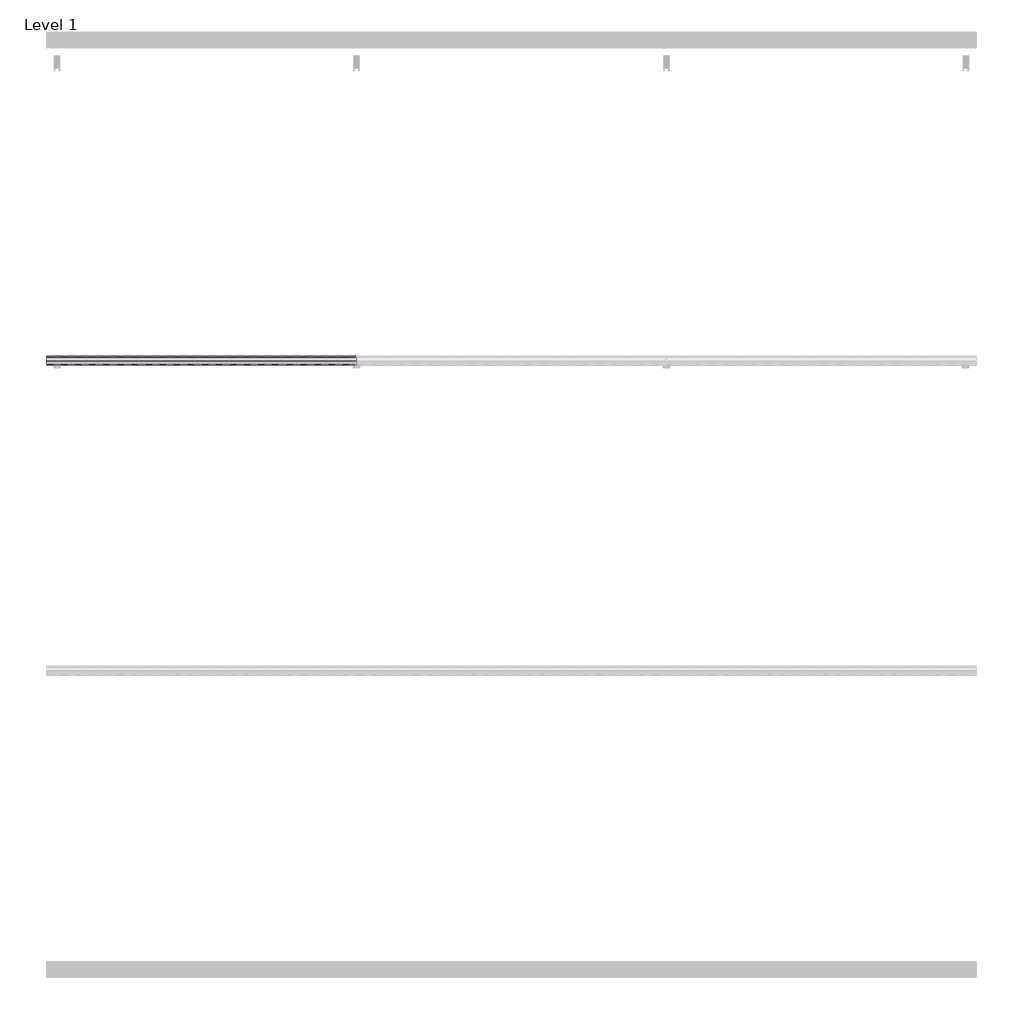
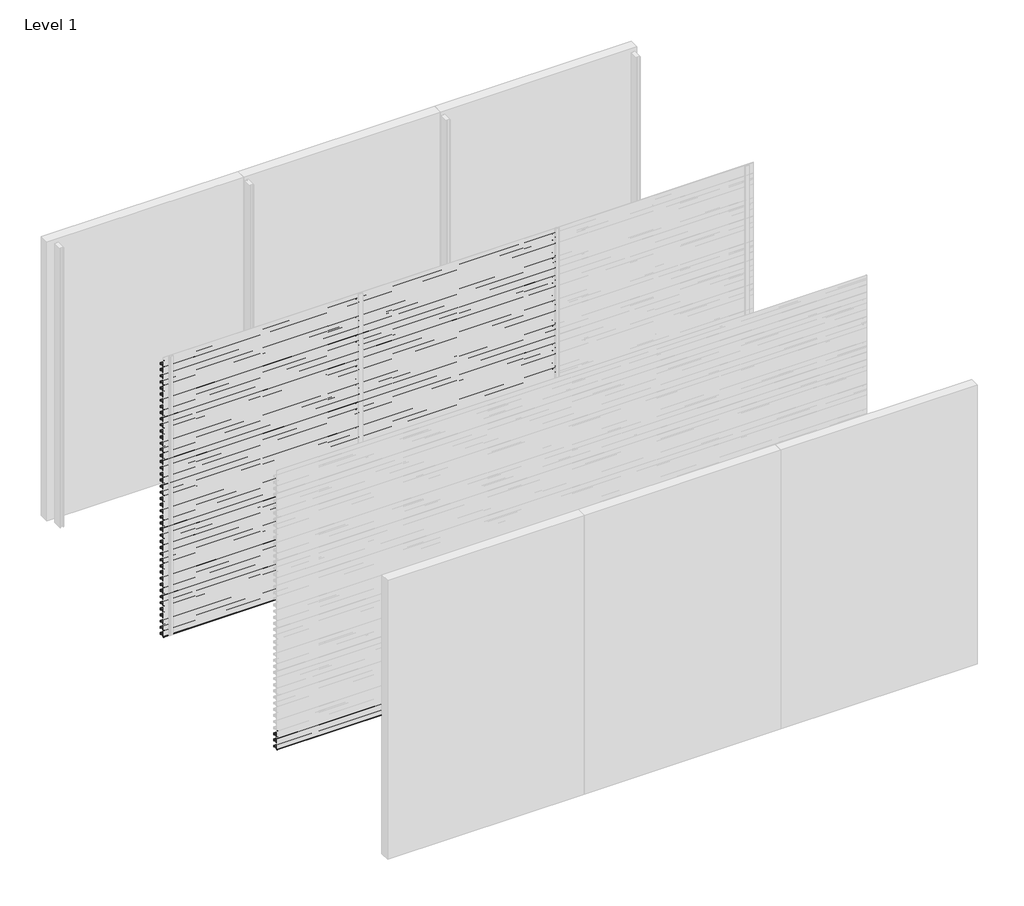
# One storey, part 16 of 27: 71 proxies.
"""IFC4 building model written with IfcOpenShell, lengths in millimetres."""

from ifc_helpers import new_model, si_unit, frame, origin, place, context, project, spatial, polyline, outline, extrude, element, save

model = new_model("IFC4")

# Units and contexts
model_context = context("Model", 3, world=origin())
ifc_project = project(units=[si_unit("LENGTHUNIT", "METRE", prefix="MILLI")], contexts=[model_context])

# Site, building, storey
site = spatial("IfcSite", under=ifc_project)
building = spatial("IfcBuilding", under=site)
storey = spatial("IfcBuildingStorey", under=building, Name="Level 1", Elevation=0.0)

# Proxies
placement = place(None, origin())
element("IfcBuildingElementProxy", 1, Name="Wall Sweeps", at=placement, inside=storey, context=model_context, shape_type="SweptSolid", body=[
    extrude(outline(polyline([(-23943.0, 2913.2), (-23943.0, 2893.5), (-23944.25, 2894.5866084), (-23944.25, 2912.4872415), (-23963.0322086, 2925.6010889), (-23995.1332975, 2893.5), (-23996.0525363, 2894.4192388), (-23964.1148087, 2926.3569665), (-23998.0, 2950.0158044), (-23998.0, 2970.0), (-23996.75, 2970.0), (-23996.75, 2950.7285629), (-23943.0, 2913.2)])), frame((0.0, 0.0, 0.0), z_axis=(1.0, 0.0, 0.0), x_axis=(0.0, 1.0, 0.0)), (0.0, 0.0, 1.0), 2000.0),
])
element("IfcBuildingElementProxy", 2, Name="Wall Sweeps", at=placement, inside=storey, context=model_context, shape_type="SweptSolid", body=[
    extrude(outline(polyline([(-23943.0, 2847.2), (-23943.0, 2827.5), (-23944.25, 2828.5866084), (-23944.25, 2846.4872415), (-23963.0322086, 2859.6010889), (-23995.1332975, 2827.5), (-23996.0525363, 2828.4192388), (-23964.1148087, 2860.3569665), (-23998.0, 2884.0158044), (-23998.0, 2904.0), (-23996.75, 2904.0), (-23996.75, 2884.7285629), (-23943.0, 2847.2)])), frame((0.0, 0.0, 0.0), z_axis=(1.0, 0.0, 0.0), x_axis=(0.0, 1.0, 0.0)), (0.0, 0.0, 1.0), 2000.0),
])
element("IfcBuildingElementProxy", 3, Name="Wall Sweeps", at=placement, inside=storey, context=model_context, shape_type="SweptSolid", body=[
    extrude(outline(polyline([(-23943.0, 2781.2), (-23943.0, 2761.5), (-23944.25, 2762.5866084), (-23944.25, 2780.4872415), (-23963.0322086, 2793.6010889), (-23995.1332975, 2761.5), (-23996.0525363, 2762.4192388), (-23964.1148087, 2794.3569665), (-23998.0, 2818.0158044), (-23998.0, 2838.0), (-23996.75, 2838.0), (-23996.75, 2818.7285629), (-23943.0, 2781.2)])), frame((0.0, 0.0, 0.0), z_axis=(1.0, 0.0, 0.0), x_axis=(0.0, 1.0, 0.0)), (0.0, 0.0, 1.0), 2000.0),
])
element("IfcBuildingElementProxy", 4, Name="Wall Sweeps", at=placement, inside=storey, context=model_context, shape_type="SweptSolid", body=[
    extrude(outline(polyline([(-23943.0, 2715.2), (-23943.0, 2695.5), (-23944.25, 2696.5866084), (-23944.25, 2714.4872415), (-23963.0322086, 2727.6010889), (-23995.1332975, 2695.5), (-23996.0525363, 2696.4192388), (-23964.1148087, 2728.3569665), (-23998.0, 2752.0158044), (-23998.0, 2772.0), (-23996.75, 2772.0), (-23996.75, 2752.7285629), (-23943.0, 2715.2)])), frame((0.0, 0.0, 0.0), z_axis=(1.0, 0.0, 0.0), x_axis=(0.0, 1.0, 0.0)), (0.0, 0.0, 1.0), 2000.0),
])
element("IfcBuildingElementProxy", 5, Name="Wall Sweeps", at=placement, inside=storey, context=model_context, shape_type="SweptSolid", body=[
    extrude(outline(polyline([(-23943.0, 2649.2), (-23943.0, 2629.5), (-23944.25, 2630.5866084), (-23944.25, 2648.4872415), (-23963.0322086, 2661.6010889), (-23995.1332975, 2629.5), (-23996.0525363, 2630.4192388), (-23964.1148087, 2662.3569665), (-23998.0, 2686.0158044), (-23998.0, 2706.0), (-23996.75, 2706.0), (-23996.75, 2686.7285629), (-23943.0, 2649.2)])), frame((0.0, 0.0, 0.0), z_axis=(1.0, 0.0, 0.0), x_axis=(0.0, 1.0, 0.0)), (0.0, 0.0, 1.0), 2000.0),
])
element("IfcBuildingElementProxy", 6, Name="Wall Sweeps", at=placement, inside=storey, context=model_context, shape_type="SweptSolid", body=[
    extrude(outline(polyline([(-23943.0, 2583.2), (-23943.0, 2563.5), (-23944.25, 2564.5866084), (-23944.25, 2582.4872415), (-23963.0322086, 2595.6010889), (-23995.1332975, 2563.5), (-23996.0525363, 2564.4192388), (-23964.1148087, 2596.3569665), (-23998.0, 2620.0158044), (-23998.0, 2640.0), (-23996.75, 2640.0), (-23996.75, 2620.7285629), (-23943.0, 2583.2)])), frame((0.0, 0.0, 0.0), z_axis=(1.0, 0.0, 0.0), x_axis=(0.0, 1.0, 0.0)), (0.0, 0.0, 1.0), 2000.0),
])
element("IfcBuildingElementProxy", 7, Name="Wall Sweeps", at=placement, inside=storey, context=model_context, shape_type="SweptSolid", body=[
    extrude(outline(polyline([(-23943.0, 2517.2), (-23943.0, 2497.5), (-23944.25, 2498.5866084), (-23944.25, 2516.4872415), (-23963.0322086, 2529.6010889), (-23995.1332975, 2497.5), (-23996.0525363, 2498.4192388), (-23964.1148087, 2530.3569665), (-23998.0, 2554.0158044), (-23998.0, 2574.0), (-23996.75, 2574.0), (-23996.75, 2554.7285629), (-23943.0, 2517.2)])), frame((0.0, 0.0, 0.0), z_axis=(1.0, 0.0, 0.0), x_axis=(0.0, 1.0, 0.0)), (0.0, 0.0, 1.0), 2000.0),
])
element("IfcBuildingElementProxy", 8, Name="Wall Sweeps", at=placement, inside=storey, context=model_context, shape_type="SweptSolid", body=[
    extrude(outline(polyline([(-23943.0, 2451.2), (-23943.0, 2431.5), (-23944.25, 2432.5866084), (-23944.25, 2450.4872415), (-23963.0322086, 2463.6010889), (-23995.1332975, 2431.5), (-23996.0525363, 2432.4192388), (-23964.1148087, 2464.3569665), (-23998.0, 2488.0158044), (-23998.0, 2508.0), (-23996.75, 2508.0), (-23996.75, 2488.7285629), (-23943.0, 2451.2)])), frame((0.0, 0.0, 0.0), z_axis=(1.0, 0.0, 0.0), x_axis=(0.0, 1.0, 0.0)), (0.0, 0.0, 1.0), 2000.0),
])
element("IfcBuildingElementProxy", 9, Name="Wall Sweeps", at=placement, inside=storey, context=model_context, shape_type="SweptSolid", body=[
    extrude(outline(polyline([(-23943.0, 2385.2), (-23943.0, 2365.5), (-23944.25, 2366.5866084), (-23944.25, 2384.4872415), (-23963.0322086, 2397.6010889), (-23995.1332975, 2365.5), (-23996.0525363, 2366.4192388), (-23964.1148087, 2398.3569665), (-23998.0, 2422.0158044), (-23998.0, 2442.0), (-23996.75, 2442.0), (-23996.75, 2422.7285629), (-23943.0, 2385.2)])), frame((0.0, 0.0, 0.0), z_axis=(1.0, 0.0, 0.0), x_axis=(0.0, 1.0, 0.0)), (0.0, 0.0, 1.0), 2000.0),
])
element("IfcBuildingElementProxy", 10, Name="Wall Sweeps", at=placement, inside=storey, context=model_context, shape_type="SweptSolid", body=[
    extrude(outline(polyline([(-23943.0, 2319.2), (-23943.0, 2299.5), (-23944.25, 2300.5866084), (-23944.25, 2318.4872415), (-23963.0322086, 2331.6010889), (-23995.1332975, 2299.5), (-23996.0525363, 2300.4192388), (-23964.1148087, 2332.3569665), (-23998.0, 2356.0158044), (-23998.0, 2376.0), (-23996.75, 2376.0), (-23996.75, 2356.7285629), (-23943.0, 2319.2)])), frame((0.0, 0.0, 0.0), z_axis=(1.0, 0.0, 0.0), x_axis=(0.0, 1.0, 0.0)), (0.0, 0.0, 1.0), 2000.0),
])
element("IfcBuildingElementProxy", 11, Name="Wall Sweeps", at=placement, inside=storey, context=model_context, shape_type="SweptSolid", body=[
    extrude(outline(polyline([(-23943.0, 2253.2), (-23943.0, 2233.5), (-23944.25, 2234.5866084), (-23944.25, 2252.4872415), (-23963.0322086, 2265.6010889), (-23995.1332975, 2233.5), (-23996.0525363, 2234.4192388), (-23964.1148087, 2266.3569665), (-23998.0, 2290.0158044), (-23998.0, 2310.0), (-23996.75, 2310.0), (-23996.75, 2290.7285629), (-23943.0, 2253.2)])), frame((0.0, 0.0, 0.0), z_axis=(1.0, 0.0, 0.0), x_axis=(0.0, 1.0, 0.0)), (0.0, 0.0, 1.0), 2000.0),
])
element("IfcBuildingElementProxy", 12, Name="Wall Sweeps", at=placement, inside=storey, context=model_context, shape_type="SweptSolid", body=[
    extrude(outline(polyline([(-23943.0, 2187.2), (-23943.0, 2167.5), (-23944.25, 2168.5866084), (-23944.25, 2186.4872415), (-23963.0322086, 2199.6010889), (-23995.1332975, 2167.5), (-23996.0525363, 2168.4192388), (-23964.1148087, 2200.3569665), (-23998.0, 2224.0158044), (-23998.0, 2244.0), (-23996.75, 2244.0), (-23996.75, 2224.7285629), (-23943.0, 2187.2)])), frame((0.0, 0.0, 0.0), z_axis=(1.0, 0.0, 0.0), x_axis=(0.0, 1.0, 0.0)), (0.0, 0.0, 1.0), 2000.0),
])
element("IfcBuildingElementProxy", 13, Name="Wall Sweeps", at=placement, inside=storey, context=model_context, shape_type="SweptSolid", body=[
    extrude(outline(polyline([(-23943.0, 2121.2), (-23943.0, 2101.5), (-23944.25, 2102.5866084), (-23944.25, 2120.4872415), (-23963.0322086, 2133.6010889), (-23995.1332975, 2101.5), (-23996.0525363, 2102.4192388), (-23964.1148087, 2134.3569665), (-23998.0, 2158.0158044), (-23998.0, 2178.0), (-23996.75, 2178.0), (-23996.75, 2158.7285629), (-23943.0, 2121.2)])), frame((0.0, 0.0, 0.0), z_axis=(1.0, 0.0, 0.0), x_axis=(0.0, 1.0, 0.0)), (0.0, 0.0, 1.0), 2000.0),
])
element("IfcBuildingElementProxy", 14, Name="Wall Sweeps", at=placement, inside=storey, context=model_context, shape_type="SweptSolid", body=[
    extrude(outline(polyline([(-23943.0, 2055.2), (-23943.0, 2035.5), (-23944.25, 2036.5866084), (-23944.25, 2054.4872415), (-23963.0322086, 2067.6010889), (-23995.1332975, 2035.5), (-23996.0525363, 2036.4192388), (-23964.1148087, 2068.3569665), (-23998.0, 2092.0158044), (-23998.0, 2112.0), (-23996.75, 2112.0), (-23996.75, 2092.7285629), (-23943.0, 2055.2)])), frame((0.0, 0.0, 0.0), z_axis=(1.0, 0.0, 0.0), x_axis=(0.0, 1.0, 0.0)), (0.0, 0.0, 1.0), 2000.0),
])
element("IfcBuildingElementProxy", 15, Name="Wall Sweeps", at=placement, inside=storey, context=model_context, shape_type="SweptSolid", body=[
    extrude(outline(polyline([(-23943.0, 1989.2), (-23943.0, 1969.5), (-23944.25, 1970.5866084), (-23944.25, 1988.4872415), (-23963.0322086, 2001.6010889), (-23995.1332975, 1969.5), (-23996.0525363, 1970.4192388), (-23964.1148087, 2002.3569665), (-23998.0, 2026.0158044), (-23998.0, 2046.0), (-23996.75, 2046.0), (-23996.75, 2026.7285629), (-23943.0, 1989.2)])), frame((0.0, 0.0, 0.0), z_axis=(1.0, 0.0, 0.0), x_axis=(0.0, 1.0, 0.0)), (0.0, 0.0, 1.0), 2000.0),
])
element("IfcBuildingElementProxy", 16, Name="Wall Sweeps", at=placement, inside=storey, context=model_context, shape_type="SweptSolid", body=[
    extrude(outline(polyline([(-23943.0, 1923.2), (-23943.0, 1903.5), (-23944.25, 1904.5866084), (-23944.25, 1922.4872415), (-23963.0322086, 1935.6010889), (-23995.1332975, 1903.5), (-23996.0525363, 1904.4192388), (-23964.1148087, 1936.3569665), (-23998.0, 1960.0158044), (-23998.0, 1980.0), (-23996.75, 1980.0), (-23996.75, 1960.7285629), (-23943.0, 1923.2)])), frame((0.0, 0.0, 0.0), z_axis=(1.0, 0.0, 0.0), x_axis=(0.0, 1.0, 0.0)), (0.0, 0.0, 1.0), 2000.0),
])
element("IfcBuildingElementProxy", 17, Name="Wall Sweeps", at=placement, inside=storey, context=model_context, shape_type="SweptSolid", body=[
    extrude(outline(polyline([(-23943.0, 1857.2), (-23943.0, 1837.5), (-23944.25, 1838.5866084), (-23944.25, 1856.4872415), (-23963.0322086, 1869.6010889), (-23995.1332975, 1837.5), (-23996.0525363, 1838.4192388), (-23964.1148087, 1870.3569665), (-23998.0, 1894.0158044), (-23998.0, 1914.0), (-23996.75, 1914.0), (-23996.75, 1894.7285629), (-23943.0, 1857.2)])), frame((0.0, 0.0, 0.0), z_axis=(1.0, 0.0, 0.0), x_axis=(0.0, 1.0, 0.0)), (0.0, 0.0, 1.0), 2000.0),
])
element("IfcBuildingElementProxy", 18, Name="Wall Sweeps", at=placement, inside=storey, context=model_context, shape_type="SweptSolid", body=[
    extrude(outline(polyline([(-23943.0, 1791.2), (-23943.0, 1771.5), (-23944.25, 1772.5866084), (-23944.25, 1790.4872415), (-23963.0322086, 1803.6010889), (-23995.1332975, 1771.5), (-23996.0525363, 1772.4192388), (-23964.1148087, 1804.3569665), (-23998.0, 1828.0158044), (-23998.0, 1848.0), (-23996.75, 1848.0), (-23996.75, 1828.7285629), (-23943.0, 1791.2)])), frame((0.0, 0.0, 0.0), z_axis=(1.0, 0.0, 0.0), x_axis=(0.0, 1.0, 0.0)), (0.0, 0.0, 1.0), 2000.0),
])
element("IfcBuildingElementProxy", 19, Name="Wall Sweeps", at=placement, inside=storey, context=model_context, shape_type="SweptSolid", body=[
    extrude(outline(polyline([(-23943.0, 1725.2), (-23943.0, 1705.5), (-23944.25, 1706.5866084), (-23944.25, 1724.4872415), (-23963.0322086, 1737.6010889), (-23995.1332975, 1705.5), (-23996.0525363, 1706.4192388), (-23964.1148087, 1738.3569665), (-23998.0, 1762.0158044), (-23998.0, 1782.0), (-23996.75, 1782.0), (-23996.75, 1762.7285629), (-23943.0, 1725.2)])), frame((0.0, 0.0, 0.0), z_axis=(1.0, 0.0, 0.0), x_axis=(0.0, 1.0, 0.0)), (0.0, 0.0, 1.0), 2000.0),
])
element("IfcBuildingElementProxy", 20, Name="Wall Sweeps", at=placement, inside=storey, context=model_context, shape_type="SweptSolid", body=[
    extrude(outline(polyline([(-23943.0, 1659.2), (-23943.0, 1639.5), (-23944.25, 1640.5866084), (-23944.25, 1658.4872415), (-23963.0322086, 1671.6010889), (-23995.1332975, 1639.5), (-23996.0525363, 1640.4192388), (-23964.1148087, 1672.3569665), (-23998.0, 1696.0158044), (-23998.0, 1716.0), (-23996.75, 1716.0), (-23996.75, 1696.7285629), (-23943.0, 1659.2)])), frame((0.0, 0.0, 0.0), z_axis=(1.0, 0.0, 0.0), x_axis=(0.0, 1.0, 0.0)), (0.0, 0.0, 1.0), 2000.0),
])
element("IfcBuildingElementProxy", 21, Name="Wall Sweeps", at=placement, inside=storey, context=model_context, shape_type="SweptSolid", body=[
    extrude(outline(polyline([(-23943.0, 1593.2), (-23943.0, 1573.5), (-23944.25, 1574.5866084), (-23944.25, 1592.4872415), (-23963.0322086, 1605.6010889), (-23995.1332975, 1573.5), (-23996.0525363, 1574.4192388), (-23964.1148087, 1606.3569665), (-23998.0, 1630.0158044), (-23998.0, 1650.0), (-23996.75, 1650.0), (-23996.75, 1630.7285629), (-23943.0, 1593.2)])), frame((0.0, 0.0, 0.0), z_axis=(1.0, 0.0, 0.0), x_axis=(0.0, 1.0, 0.0)), (0.0, 0.0, 1.0), 2000.0),
])
element("IfcBuildingElementProxy", 22, Name="Wall Sweeps", at=placement, inside=storey, context=model_context, shape_type="SweptSolid", body=[
    extrude(outline(polyline([(-23943.0, 1527.2), (-23943.0, 1507.5), (-23944.25, 1508.5866084), (-23944.25, 1526.4872415), (-23963.0322086, 1539.6010889), (-23995.1332975, 1507.5), (-23996.0525363, 1508.4192388), (-23964.1148087, 1540.3569665), (-23998.0, 1564.0158044), (-23998.0, 1584.0), (-23996.75, 1584.0), (-23996.75, 1564.7285629), (-23943.0, 1527.2)])), frame((0.0, 0.0, 0.0), z_axis=(1.0, 0.0, 0.0), x_axis=(0.0, 1.0, 0.0)), (0.0, 0.0, 1.0), 2000.0),
])
element("IfcBuildingElementProxy", 23, Name="Wall Sweeps", at=placement, inside=storey, context=model_context, shape_type="SweptSolid", body=[
    extrude(outline(polyline([(-23943.0, 1461.2), (-23943.0, 1441.5), (-23944.25, 1442.5866084), (-23944.25, 1460.4872415), (-23963.0322086, 1473.6010889), (-23995.1332975, 1441.5), (-23996.0525363, 1442.4192388), (-23964.1148087, 1474.3569665), (-23998.0, 1498.0158044), (-23998.0, 1518.0), (-23996.75, 1518.0), (-23996.75, 1498.7285629), (-23943.0, 1461.2)])), frame((0.0, 0.0, 0.0), z_axis=(1.0, 0.0, 0.0), x_axis=(0.0, 1.0, 0.0)), (0.0, 0.0, 1.0), 2000.0),
])
element("IfcBuildingElementProxy", 24, Name="Wall Sweeps", at=placement, inside=storey, context=model_context, shape_type="SweptSolid", body=[
    extrude(outline(polyline([(-23943.0, 1395.2), (-23943.0, 1375.5), (-23944.25, 1376.5866084), (-23944.25, 1394.4872415), (-23963.0322086, 1407.6010889), (-23995.1332975, 1375.5), (-23996.0525363, 1376.4192388), (-23964.1148087, 1408.3569665), (-23998.0, 1432.0158044), (-23998.0, 1452.0), (-23996.75, 1452.0), (-23996.75, 1432.7285629), (-23943.0, 1395.2)])), frame((0.0, 0.0, 0.0), z_axis=(1.0, 0.0, 0.0), x_axis=(0.0, 1.0, 0.0)), (0.0, 0.0, 1.0), 2000.0),
])
element("IfcBuildingElementProxy", 25, Name="Wall Sweeps", at=placement, inside=storey, context=model_context, shape_type="SweptSolid", body=[
    extrude(outline(polyline([(-23943.0, 1329.2), (-23943.0, 1309.5), (-23944.25, 1310.5866084), (-23944.25, 1328.4872415), (-23963.0322086, 1341.6010889), (-23995.1332975, 1309.5), (-23996.0525363, 1310.4192388), (-23964.1148087, 1342.3569665), (-23998.0, 1366.0158044), (-23998.0, 1386.0), (-23996.75, 1386.0), (-23996.75, 1366.7285629), (-23943.0, 1329.2)])), frame((0.0, 0.0, 0.0), z_axis=(1.0, 0.0, 0.0), x_axis=(0.0, 1.0, 0.0)), (0.0, 0.0, 1.0), 2000.0),
])
element("IfcBuildingElementProxy", 26, Name="Wall Sweeps", at=placement, inside=storey, context=model_context, shape_type="SweptSolid", body=[
    extrude(outline(polyline([(-23943.0, 1263.2), (-23943.0, 1243.5), (-23944.25, 1244.5866084), (-23944.25, 1262.4872415), (-23963.0322086, 1275.6010889), (-23995.1332975, 1243.5), (-23996.0525363, 1244.4192388), (-23964.1148087, 1276.3569665), (-23998.0, 1300.0158044), (-23998.0, 1320.0), (-23996.75, 1320.0), (-23996.75, 1300.7285629), (-23943.0, 1263.2)])), frame((0.0, 0.0, 0.0), z_axis=(1.0, 0.0, 0.0), x_axis=(0.0, 1.0, 0.0)), (0.0, 0.0, 1.0), 2000.0),
])
element("IfcBuildingElementProxy", 27, Name="Wall Sweeps", at=placement, inside=storey, context=model_context, shape_type="SweptSolid", body=[
    extrude(outline(polyline([(-23943.0, 1197.2), (-23943.0, 1177.5), (-23944.25, 1178.5866084), (-23944.25, 1196.4872415), (-23963.0322086, 1209.6010889), (-23995.1332975, 1177.5), (-23996.0525363, 1178.4192388), (-23964.1148087, 1210.3569665), (-23998.0, 1234.0158044), (-23998.0, 1254.0), (-23996.75, 1254.0), (-23996.75, 1234.7285629), (-23943.0, 1197.2)])), frame((0.0, 0.0, 0.0), z_axis=(1.0, 0.0, 0.0), x_axis=(0.0, 1.0, 0.0)), (0.0, 0.0, 1.0), 2000.0),
])
element("IfcBuildingElementProxy", 28, Name="Wall Sweeps", at=placement, inside=storey, context=model_context, shape_type="SweptSolid", body=[
    extrude(outline(polyline([(-23943.0, 1131.2), (-23943.0, 1111.5), (-23944.25, 1112.5866084), (-23944.25, 1130.4872415), (-23963.0322086, 1143.6010889), (-23995.1332975, 1111.5), (-23996.0525363, 1112.4192388), (-23964.1148087, 1144.3569665), (-23998.0, 1168.0158044), (-23998.0, 1188.0), (-23996.75, 1188.0), (-23996.75, 1168.7285629), (-23943.0, 1131.2)])), frame((0.0, 0.0, 0.0), z_axis=(1.0, 0.0, 0.0), x_axis=(0.0, 1.0, 0.0)), (0.0, 0.0, 1.0), 2000.0),
])
element("IfcBuildingElementProxy", 29, Name="Wall Sweeps", at=placement, inside=storey, context=model_context, shape_type="SweptSolid", body=[
    extrude(outline(polyline([(-23943.0, 1065.2), (-23943.0, 1045.5), (-23944.25, 1046.5866084), (-23944.25, 1064.4872415), (-23963.0322086, 1077.6010889), (-23995.1332975, 1045.5), (-23996.0525363, 1046.4192388), (-23964.1148087, 1078.3569665), (-23998.0, 1102.0158044), (-23998.0, 1122.0), (-23996.75, 1122.0), (-23996.75, 1102.7285629), (-23943.0, 1065.2)])), frame((0.0, 0.0, 0.0), z_axis=(1.0, 0.0, 0.0), x_axis=(0.0, 1.0, 0.0)), (0.0, 0.0, 1.0), 2000.0),
])
element("IfcBuildingElementProxy", 30, Name="Wall Sweeps", at=placement, inside=storey, context=model_context, shape_type="SweptSolid", body=[
    extrude(outline(polyline([(-23943.0, 999.2), (-23943.0, 979.5), (-23944.25, 980.5866084), (-23944.25, 998.4872415), (-23963.0322086, 1011.6010889), (-23995.1332975, 979.5), (-23996.0525363, 980.4192388), (-23964.1148087, 1012.3569665), (-23998.0, 1036.0158044), (-23998.0, 1056.0), (-23996.75, 1056.0), (-23996.75, 1036.7285629), (-23943.0, 999.2)])), frame((0.0, 0.0, 0.0), z_axis=(1.0, 0.0, 0.0), x_axis=(0.0, 1.0, 0.0)), (0.0, 0.0, 1.0), 2000.0),
])
element("IfcBuildingElementProxy", 31, Name="Wall Sweeps", at=placement, inside=storey, context=model_context, shape_type="SweptSolid", body=[
    extrude(outline(polyline([(-23943.0, 933.2), (-23943.0, 913.5), (-23944.25, 914.5866084), (-23944.25, 932.4872415), (-23963.0322086, 945.6010889), (-23995.1332975, 913.5), (-23996.0525363, 914.4192388), (-23964.1148087, 946.3569665), (-23998.0, 970.0158044), (-23998.0, 990.0), (-23996.75, 990.0), (-23996.75, 970.7285629), (-23943.0, 933.2)])), frame((0.0, 0.0, 0.0), z_axis=(1.0, 0.0, 0.0), x_axis=(0.0, 1.0, 0.0)), (0.0, 0.0, 1.0), 2000.0),
])
element("IfcBuildingElementProxy", 32, Name="Wall Sweeps", at=placement, inside=storey, context=model_context, shape_type="SweptSolid", body=[
    extrude(outline(polyline([(-23943.0, 867.2), (-23943.0, 847.5), (-23944.25, 848.5866084), (-23944.25, 866.4872415), (-23963.0322086, 879.6010889), (-23995.1332975, 847.5), (-23996.0525363, 848.4192388), (-23964.1148087, 880.3569665), (-23998.0, 904.0158044), (-23998.0, 924.0), (-23996.75, 924.0), (-23996.75, 904.7285629), (-23943.0, 867.2)])), frame((0.0, 0.0, 0.0), z_axis=(1.0, 0.0, 0.0), x_axis=(0.0, 1.0, 0.0)), (0.0, 0.0, 1.0), 2000.0),
])
element("IfcBuildingElementProxy", 33, Name="Wall Sweeps", at=placement, inside=storey, context=model_context, shape_type="SweptSolid", body=[
    extrude(outline(polyline([(-23943.0, 801.2), (-23943.0, 781.5), (-23944.25, 782.5866084), (-23944.25, 800.4872415), (-23963.0322086, 813.6010889), (-23995.1332975, 781.5), (-23996.0525363, 782.4192388), (-23964.1148087, 814.3569665), (-23998.0, 838.0158044), (-23998.0, 858.0), (-23996.75, 858.0), (-23996.75, 838.7285629), (-23943.0, 801.2)])), frame((0.0, 0.0, 0.0), z_axis=(1.0, 0.0, 0.0), x_axis=(0.0, 1.0, 0.0)), (0.0, 0.0, 1.0), 2000.0),
])
element("IfcBuildingElementProxy", 34, Name="Wall Sweeps", at=placement, inside=storey, context=model_context, shape_type="SweptSolid", body=[
    extrude(outline(polyline([(-23943.0, 735.2), (-23943.0, 715.5), (-23944.25, 716.5866084), (-23944.25, 734.4872415), (-23963.0322086, 747.6010889), (-23995.1332975, 715.5), (-23996.0525363, 716.4192388), (-23964.1148087, 748.3569665), (-23998.0, 772.0158044), (-23998.0, 792.0), (-23996.75, 792.0), (-23996.75, 772.7285629), (-23943.0, 735.2)])), frame((0.0, 0.0, 0.0), z_axis=(1.0, 0.0, 0.0), x_axis=(0.0, 1.0, 0.0)), (0.0, 0.0, 1.0), 2000.0),
])
element("IfcBuildingElementProxy", 35, Name="Wall Sweeps", at=placement, inside=storey, context=model_context, shape_type="SweptSolid", body=[
    extrude(outline(polyline([(-23943.0, 669.2), (-23943.0, 649.5), (-23944.25, 650.5866084), (-23944.25, 668.4872415), (-23963.0322086, 681.6010889), (-23995.1332975, 649.5), (-23996.0525363, 650.4192388), (-23964.1148087, 682.3569665), (-23998.0, 706.0158044), (-23998.0, 726.0), (-23996.75, 726.0), (-23996.75, 706.7285629), (-23943.0, 669.2)])), frame((0.0, 0.0, 0.0), z_axis=(1.0, 0.0, 0.0), x_axis=(0.0, 1.0, 0.0)), (0.0, 0.0, 1.0), 2000.0),
])
element("IfcBuildingElementProxy", 36, Name="Wall Sweeps", at=placement, inside=storey, context=model_context, shape_type="SweptSolid", body=[
    extrude(outline(polyline([(-23943.0, 603.2), (-23943.0, 583.5), (-23944.25, 584.5866084), (-23944.25, 602.4872415), (-23963.0322086, 615.6010889), (-23995.1332975, 583.5), (-23996.0525363, 584.4192388), (-23964.1148087, 616.3569665), (-23998.0, 640.0158044), (-23998.0, 660.0), (-23996.75, 660.0), (-23996.75, 640.7285629), (-23943.0, 603.2)])), frame((0.0, 0.0, 0.0), z_axis=(1.0, 0.0, 0.0), x_axis=(0.0, 1.0, 0.0)), (0.0, 0.0, 1.0), 2000.0),
])
element("IfcBuildingElementProxy", 37, Name="Wall Sweeps", at=placement, inside=storey, context=model_context, shape_type="SweptSolid", body=[
    extrude(outline(polyline([(-23943.0, 537.2), (-23943.0, 517.5), (-23944.25, 518.5866084), (-23944.25, 536.4872415), (-23963.0322086, 549.6010889), (-23995.1332975, 517.5), (-23996.0525363, 518.4192388), (-23964.1148087, 550.3569665), (-23998.0, 574.0158044), (-23998.0, 594.0), (-23996.75, 594.0), (-23996.75, 574.7285629), (-23943.0, 537.2)])), frame((0.0, 0.0, 0.0), z_axis=(1.0, 0.0, 0.0), x_axis=(0.0, 1.0, 0.0)), (0.0, 0.0, 1.0), 2000.0),
])
element("IfcBuildingElementProxy", 38, Name="Wall Sweeps", at=placement, inside=storey, context=model_context, shape_type="SweptSolid", body=[
    extrude(outline(polyline([(-23943.0, 471.2), (-23943.0, 451.5), (-23944.25, 452.5866084), (-23944.25, 470.4872415), (-23963.0322086, 483.6010889), (-23995.1332975, 451.5), (-23996.0525363, 452.4192388), (-23964.1148087, 484.3569665), (-23998.0, 508.0158044), (-23998.0, 528.0), (-23996.75, 528.0), (-23996.75, 508.7285629), (-23943.0, 471.2)])), frame((0.0, 0.0, 0.0), z_axis=(1.0, 0.0, 0.0), x_axis=(0.0, 1.0, 0.0)), (0.0, 0.0, 1.0), 2000.0),
])
element("IfcBuildingElementProxy", 39, Name="Wall Sweeps", at=placement, inside=storey, context=model_context, shape_type="SweptSolid", body=[
    extrude(outline(polyline([(-23943.0, 405.2), (-23943.0, 385.5), (-23944.25, 386.5866084), (-23944.25, 404.4872415), (-23963.0322086, 417.6010889), (-23995.1332975, 385.5), (-23996.0525363, 386.4192388), (-23964.1148087, 418.3569665), (-23998.0, 442.0158044), (-23998.0, 462.0), (-23996.75, 462.0), (-23996.75, 442.7285629), (-23943.0, 405.2)])), frame((0.0, 0.0, 0.0), z_axis=(1.0, 0.0, 0.0), x_axis=(0.0, 1.0, 0.0)), (0.0, 0.0, 1.0), 2000.0),
])
element("IfcBuildingElementProxy", 40, Name="Wall Sweeps", at=placement, inside=storey, context=model_context, shape_type="SweptSolid", body=[
    extrude(outline(polyline([(-23943.0, 339.2), (-23943.0, 319.5), (-23944.25, 320.5866084), (-23944.25, 338.4872415), (-23963.0322086, 351.6010889), (-23995.1332975, 319.5), (-23996.0525363, 320.4192388), (-23964.1148087, 352.3569665), (-23998.0, 376.0158044), (-23998.0, 396.0), (-23996.75, 396.0), (-23996.75, 376.7285629), (-23943.0, 339.2)])), frame((0.0, 0.0, 0.0), z_axis=(1.0, 0.0, 0.0), x_axis=(0.0, 1.0, 0.0)), (0.0, 0.0, 1.0), 2000.0),
])
element("IfcBuildingElementProxy", 41, Name="Wall Sweeps", at=placement, inside=storey, context=model_context, shape_type="SweptSolid", body=[
    extrude(outline(polyline([(-23943.0, 273.2), (-23943.0, 253.5), (-23944.25, 254.5866084), (-23944.25, 272.4872415), (-23963.0322086, 285.6010889), (-23995.1332975, 253.5), (-23996.0525363, 254.4192388), (-23964.1148087, 286.3569665), (-23998.0, 310.0158044), (-23998.0, 330.0), (-23996.75, 330.0), (-23996.75, 310.7285629), (-23943.0, 273.2)])), frame((0.0, 0.0, 0.0), z_axis=(1.0, 0.0, 0.0), x_axis=(0.0, 1.0, 0.0)), (0.0, 0.0, 1.0), 2000.0),
])
element("IfcBuildingElementProxy", 42, Name="Wall Sweeps", at=placement, inside=storey, context=model_context, shape_type="SweptSolid", body=[
    extrude(outline(polyline([(-23943.0, 207.2), (-23943.0, 187.5), (-23944.25, 188.5866084), (-23944.25, 206.4872415), (-23963.0322086, 219.6010889), (-23995.1332975, 187.5), (-23996.0525363, 188.4192388), (-23964.1148087, 220.3569665), (-23998.0, 244.0158044), (-23998.0, 264.0), (-23996.75, 264.0), (-23996.75, 244.7285629), (-23943.0, 207.2)])), frame((0.0, 0.0, 0.0), z_axis=(1.0, 0.0, 0.0), x_axis=(0.0, 1.0, 0.0)), (0.0, 0.0, 1.0), 2000.0),
])
element("IfcBuildingElementProxy", 43, Name="Wall Sweeps", at=placement, inside=storey, context=model_context, shape_type="SweptSolid", body=[
    extrude(outline(polyline([(-23943.0, 141.2), (-23943.0, 121.5), (-23944.25, 122.5866084), (-23944.25, 140.4872415), (-23963.0322086, 153.6010889), (-23995.1332975, 121.5), (-23996.0525363, 122.4192388), (-23964.1148087, 154.3569665), (-23998.0, 178.0158044), (-23998.0, 198.0), (-23996.75, 198.0), (-23996.75, 178.7285629), (-23943.0, 141.2)])), frame((0.0, 0.0, 0.0), z_axis=(1.0, 0.0, 0.0), x_axis=(0.0, 1.0, 0.0)), (0.0, 0.0, 1.0), 2000.0),
])
element("IfcBuildingElementProxy", 44, Name="Wall Sweeps", at=placement, inside=storey, context=model_context, shape_type="SweptSolid", body=[
    extrude(outline(polyline([(-23943.0, 75.2), (-23943.0, 55.5), (-23944.25, 56.5866084), (-23944.25, 74.4872415), (-23963.0322086, 87.6010889), (-23995.1332975, 55.5), (-23996.0525363, 56.4192388), (-23964.1148087, 88.3569665), (-23998.0, 112.0158044), (-23998.0, 132.0), (-23996.75, 132.0), (-23996.75, 112.7285629), (-23943.0, 75.2)])), frame((0.0, 0.0, 0.0), z_axis=(1.0, 0.0, 0.0), x_axis=(0.0, 1.0, 0.0)), (0.0, 0.0, 1.0), 2000.0),
])
element("IfcBuildingElementProxy", 45, Name="Wall Sweeps", at=placement, inside=storey, context=model_context, shape_type="SweptSolid", body=[
    extrude(outline(polyline([(-23943.0, 9.2), (-23943.0, -10.5), (-23944.25, -9.4133916), (-23944.25, 8.4872415), (-23963.0322086, 21.6010889), (-23995.1332975, -10.5), (-23996.0525363, -9.5807612), (-23964.1148087, 22.3569665), (-23998.0, 46.0158044), (-23998.0, 66.0), (-23996.75, 66.0), (-23996.75, 46.7285629), (-23943.0, 9.2)])), frame((0.0, 0.0, 0.0), z_axis=(1.0, 0.0, 0.0), x_axis=(0.0, 1.0, 0.0)), (0.0, 0.0, 1.0), 2000.0),
])
element("IfcBuildingElementProxy", 46, Name="Wall Sweeps", at=placement, inside=storey, context=model_context, shape_type="SweptSolid", body=[
    extrude(outline(polyline([(-23943.0, 2913.2), (-23943.0, 2893.5), (-23944.25, 2894.5866084), (-23944.25, 2912.4872415), (-23963.0322086, 2925.6010889), (-23995.1332975, 2893.5), (-23996.0525363, 2894.4192388), (-23964.1148087, 2926.3569665), (-23998.0, 2950.0158044), (-23998.0, 2970.0), (-23996.75, 2970.0), (-23996.75, 2950.7285629), (-23943.0, 2913.2)])), frame((2000.0, 0.0, 0.0), z_axis=(1.0, 0.0, 0.0), x_axis=(0.0, 1.0, 0.0)), (0.0, 0.0, 1.0), 2000.0),
])
element("IfcBuildingElementProxy", 47, Name="Wall Sweeps", at=placement, inside=storey, context=model_context, shape_type="SweptSolid", body=[
    extrude(outline(polyline([(-23943.0, 2847.2), (-23943.0, 2827.5), (-23944.25, 2828.5866084), (-23944.25, 2846.4872415), (-23963.0322086, 2859.6010889), (-23995.1332975, 2827.5), (-23996.0525363, 2828.4192388), (-23964.1148087, 2860.3569665), (-23998.0, 2884.0158044), (-23998.0, 2904.0), (-23996.75, 2904.0), (-23996.75, 2884.7285629), (-23943.0, 2847.2)])), frame((2000.0, 0.0, 0.0), z_axis=(1.0, 0.0, 0.0), x_axis=(0.0, 1.0, 0.0)), (0.0, 0.0, 1.0), 2000.0),
])
element("IfcBuildingElementProxy", 48, Name="Wall Sweeps", at=placement, inside=storey, context=model_context, shape_type="SweptSolid", body=[
    extrude(outline(polyline([(-23943.0, 2781.2), (-23943.0, 2761.5), (-23944.25, 2762.5866084), (-23944.25, 2780.4872415), (-23963.0322086, 2793.6010889), (-23995.1332975, 2761.5), (-23996.0525363, 2762.4192388), (-23964.1148087, 2794.3569665), (-23998.0, 2818.0158044), (-23998.0, 2838.0), (-23996.75, 2838.0), (-23996.75, 2818.7285629), (-23943.0, 2781.2)])), frame((2000.0, 0.0, 0.0), z_axis=(1.0, 0.0, 0.0), x_axis=(0.0, 1.0, 0.0)), (0.0, 0.0, 1.0), 2000.0),
])
element("IfcBuildingElementProxy", 49, Name="Wall Sweeps", at=placement, inside=storey, context=model_context, shape_type="SweptSolid", body=[
    extrude(outline(polyline([(-23943.0, 2715.2), (-23943.0, 2695.5), (-23944.25, 2696.5866084), (-23944.25, 2714.4872415), (-23963.0322086, 2727.6010889), (-23995.1332975, 2695.5), (-23996.0525363, 2696.4192388), (-23964.1148087, 2728.3569665), (-23998.0, 2752.0158044), (-23998.0, 2772.0), (-23996.75, 2772.0), (-23996.75, 2752.7285629), (-23943.0, 2715.2)])), frame((2000.0, 0.0, 0.0), z_axis=(1.0, 0.0, 0.0), x_axis=(0.0, 1.0, 0.0)), (0.0, 0.0, 1.0), 2000.0),
])
element("IfcBuildingElementProxy", 50, Name="Wall Sweeps", at=placement, inside=storey, context=model_context, shape_type="SweptSolid", body=[
    extrude(outline(polyline([(-23943.0, 2649.2), (-23943.0, 2629.5), (-23944.25, 2630.5866084), (-23944.25, 2648.4872415), (-23963.0322086, 2661.6010889), (-23995.1332975, 2629.5), (-23996.0525363, 2630.4192388), (-23964.1148087, 2662.3569665), (-23998.0, 2686.0158044), (-23998.0, 2706.0), (-23996.75, 2706.0), (-23996.75, 2686.7285629), (-23943.0, 2649.2)])), frame((2000.0, 0.0, 0.0), z_axis=(1.0, 0.0, 0.0), x_axis=(0.0, 1.0, 0.0)), (0.0, 0.0, 1.0), 2000.0),
])
element("IfcBuildingElementProxy", 51, Name="Wall Sweeps", at=placement, inside=storey, context=model_context, shape_type="SweptSolid", body=[
    extrude(outline(polyline([(-23943.0, 2583.2), (-23943.0, 2563.5), (-23944.25, 2564.5866084), (-23944.25, 2582.4872415), (-23963.0322086, 2595.6010889), (-23995.1332975, 2563.5), (-23996.0525363, 2564.4192388), (-23964.1148087, 2596.3569665), (-23998.0, 2620.0158044), (-23998.0, 2640.0), (-23996.75, 2640.0), (-23996.75, 2620.7285629), (-23943.0, 2583.2)])), frame((2000.0, 0.0, 0.0), z_axis=(1.0, 0.0, 0.0), x_axis=(0.0, 1.0, 0.0)), (0.0, 0.0, 1.0), 2000.0),
])
element("IfcBuildingElementProxy", 52, Name="Wall Sweeps", at=placement, inside=storey, context=model_context, shape_type="SweptSolid", body=[
    extrude(outline(polyline([(-23943.0, 2517.2), (-23943.0, 2497.5), (-23944.25, 2498.5866084), (-23944.25, 2516.4872415), (-23963.0322086, 2529.6010889), (-23995.1332975, 2497.5), (-23996.0525363, 2498.4192388), (-23964.1148087, 2530.3569665), (-23998.0, 2554.0158044), (-23998.0, 2574.0), (-23996.75, 2574.0), (-23996.75, 2554.7285629), (-23943.0, 2517.2)])), frame((2000.0, 0.0, 0.0), z_axis=(1.0, 0.0, 0.0), x_axis=(0.0, 1.0, 0.0)), (0.0, 0.0, 1.0), 2000.0),
])
element("IfcBuildingElementProxy", 53, Name="Wall Sweeps", at=placement, inside=storey, context=model_context, shape_type="SweptSolid", body=[
    extrude(outline(polyline([(-23943.0, 2451.2), (-23943.0, 2431.5), (-23944.25, 2432.5866084), (-23944.25, 2450.4872415), (-23963.0322086, 2463.6010889), (-23995.1332975, 2431.5), (-23996.0525363, 2432.4192388), (-23964.1148087, 2464.3569665), (-23998.0, 2488.0158044), (-23998.0, 2508.0), (-23996.75, 2508.0), (-23996.75, 2488.7285629), (-23943.0, 2451.2)])), frame((2000.0, 0.0, 0.0), z_axis=(1.0, 0.0, 0.0), x_axis=(0.0, 1.0, 0.0)), (0.0, 0.0, 1.0), 2000.0),
])
element("IfcBuildingElementProxy", 54, Name="Wall Sweeps", at=placement, inside=storey, context=model_context, shape_type="SweptSolid", body=[
    extrude(outline(polyline([(-23943.0, 2385.2), (-23943.0, 2365.5), (-23944.25, 2366.5866084), (-23944.25, 2384.4872415), (-23963.0322086, 2397.6010889), (-23995.1332975, 2365.5), (-23996.0525363, 2366.4192388), (-23964.1148087, 2398.3569665), (-23998.0, 2422.0158044), (-23998.0, 2442.0), (-23996.75, 2442.0), (-23996.75, 2422.7285629), (-23943.0, 2385.2)])), frame((2000.0, 0.0, 0.0), z_axis=(1.0, 0.0, 0.0), x_axis=(0.0, 1.0, 0.0)), (0.0, 0.0, 1.0), 2000.0),
])
element("IfcBuildingElementProxy", 55, Name="Wall Sweeps", at=placement, inside=storey, context=model_context, shape_type="SweptSolid", body=[
    extrude(outline(polyline([(-23943.0, 2319.2), (-23943.0, 2299.5), (-23944.25, 2300.5866084), (-23944.25, 2318.4872415), (-23963.0322086, 2331.6010889), (-23995.1332975, 2299.5), (-23996.0525363, 2300.4192388), (-23964.1148087, 2332.3569665), (-23998.0, 2356.0158044), (-23998.0, 2376.0), (-23996.75, 2376.0), (-23996.75, 2356.7285629), (-23943.0, 2319.2)])), frame((2000.0, 0.0, 0.0), z_axis=(1.0, 0.0, 0.0), x_axis=(0.0, 1.0, 0.0)), (0.0, 0.0, 1.0), 2000.0),
])
element("IfcBuildingElementProxy", 56, Name="Wall Sweeps", at=placement, inside=storey, context=model_context, shape_type="SweptSolid", body=[
    extrude(outline(polyline([(-23943.0, 2253.2), (-23943.0, 2233.5), (-23944.25, 2234.5866084), (-23944.25, 2252.4872415), (-23963.0322086, 2265.6010889), (-23995.1332975, 2233.5), (-23996.0525363, 2234.4192388), (-23964.1148087, 2266.3569665), (-23998.0, 2290.0158044), (-23998.0, 2310.0), (-23996.75, 2310.0), (-23996.75, 2290.7285629), (-23943.0, 2253.2)])), frame((2000.0, 0.0, 0.0), z_axis=(1.0, 0.0, 0.0), x_axis=(0.0, 1.0, 0.0)), (0.0, 0.0, 1.0), 2000.0),
])
element("IfcBuildingElementProxy", 57, Name="Wall Sweeps", at=placement, inside=storey, context=model_context, shape_type="SweptSolid", body=[
    extrude(outline(polyline([(-23943.0, 2187.2), (-23943.0, 2167.5), (-23944.25, 2168.5866084), (-23944.25, 2186.4872415), (-23963.0322086, 2199.6010889), (-23995.1332975, 2167.5), (-23996.0525363, 2168.4192388), (-23964.1148087, 2200.3569665), (-23998.0, 2224.0158044), (-23998.0, 2244.0), (-23996.75, 2244.0), (-23996.75, 2224.7285629), (-23943.0, 2187.2)])), frame((2000.0, 0.0, 0.0), z_axis=(1.0, 0.0, 0.0), x_axis=(0.0, 1.0, 0.0)), (0.0, 0.0, 1.0), 2000.0),
])
element("IfcBuildingElementProxy", 58, Name="Wall Sweeps", at=placement, inside=storey, context=model_context, shape_type="SweptSolid", body=[
    extrude(outline(polyline([(-23943.0, 2121.2), (-23943.0, 2101.5), (-23944.25, 2102.5866084), (-23944.25, 2120.4872415), (-23963.0322086, 2133.6010889), (-23995.1332975, 2101.5), (-23996.0525363, 2102.4192388), (-23964.1148087, 2134.3569665), (-23998.0, 2158.0158044), (-23998.0, 2178.0), (-23996.75, 2178.0), (-23996.75, 2158.7285629), (-23943.0, 2121.2)])), frame((2000.0, 0.0, 0.0), z_axis=(1.0, 0.0, 0.0), x_axis=(0.0, 1.0, 0.0)), (0.0, 0.0, 1.0), 2000.0),
])
element("IfcBuildingElementProxy", 59, Name="Wall Sweeps", at=placement, inside=storey, context=model_context, shape_type="SweptSolid", body=[
    extrude(outline(polyline([(-23943.0, 2055.2), (-23943.0, 2035.5), (-23944.25, 2036.5866084), (-23944.25, 2054.4872415), (-23963.0322086, 2067.6010889), (-23995.1332975, 2035.5), (-23996.0525363, 2036.4192388), (-23964.1148087, 2068.3569665), (-23998.0, 2092.0158044), (-23998.0, 2112.0), (-23996.75, 2112.0), (-23996.75, 2092.7285629), (-23943.0, 2055.2)])), frame((2000.0, 0.0, 0.0), z_axis=(1.0, 0.0, 0.0), x_axis=(0.0, 1.0, 0.0)), (0.0, 0.0, 1.0), 2000.0),
])
element("IfcBuildingElementProxy", 60, Name="Wall Sweeps", at=placement, inside=storey, context=model_context, shape_type="SweptSolid", body=[
    extrude(outline(polyline([(-23943.0, 1989.2), (-23943.0, 1969.5), (-23944.25, 1970.5866084), (-23944.25, 1988.4872415), (-23963.0322086, 2001.6010889), (-23995.1332975, 1969.5), (-23996.0525363, 1970.4192388), (-23964.1148087, 2002.3569665), (-23998.0, 2026.0158044), (-23998.0, 2046.0), (-23996.75, 2046.0), (-23996.75, 2026.7285629), (-23943.0, 1989.2)])), frame((2000.0, 0.0, 0.0), z_axis=(1.0, 0.0, 0.0), x_axis=(0.0, 1.0, 0.0)), (0.0, 0.0, 1.0), 2000.0),
])
element("IfcBuildingElementProxy", 61, Name="Wall Sweeps", at=placement, inside=storey, context=model_context, shape_type="SweptSolid", body=[
    extrude(outline(polyline([(-23943.0, 1923.2), (-23943.0, 1903.5), (-23944.25, 1904.5866084), (-23944.25, 1922.4872415), (-23963.0322086, 1935.6010889), (-23995.1332975, 1903.5), (-23996.0525363, 1904.4192388), (-23964.1148087, 1936.3569665), (-23998.0, 1960.0158044), (-23998.0, 1980.0), (-23996.75, 1980.0), (-23996.75, 1960.7285629), (-23943.0, 1923.2)])), frame((2000.0, 0.0, 0.0), z_axis=(1.0, 0.0, 0.0), x_axis=(0.0, 1.0, 0.0)), (0.0, 0.0, 1.0), 2000.0),
])
element("IfcBuildingElementProxy", 62, Name="Wall Sweeps", at=placement, inside=storey, context=model_context, shape_type="SweptSolid", body=[
    extrude(outline(polyline([(-23943.0, 1857.2), (-23943.0, 1837.5), (-23944.25, 1838.5866084), (-23944.25, 1856.4872415), (-23963.0322086, 1869.6010889), (-23995.1332975, 1837.5), (-23996.0525363, 1838.4192388), (-23964.1148087, 1870.3569665), (-23998.0, 1894.0158044), (-23998.0, 1914.0), (-23996.75, 1914.0), (-23996.75, 1894.7285629), (-23943.0, 1857.2)])), frame((2000.0, 0.0, 0.0), z_axis=(1.0, 0.0, 0.0), x_axis=(0.0, 1.0, 0.0)), (0.0, 0.0, 1.0), 2000.0),
])
element("IfcBuildingElementProxy", 63, Name="Wall Sweeps", at=placement, inside=storey, context=model_context, shape_type="SweptSolid", body=[
    extrude(outline(polyline([(-23943.0, 1791.2), (-23943.0, 1771.5), (-23944.25, 1772.5866084), (-23944.25, 1790.4872415), (-23963.0322086, 1803.6010889), (-23995.1332975, 1771.5), (-23996.0525363, 1772.4192388), (-23964.1148087, 1804.3569665), (-23998.0, 1828.0158044), (-23998.0, 1848.0), (-23996.75, 1848.0), (-23996.75, 1828.7285629), (-23943.0, 1791.2)])), frame((2000.0, 0.0, 0.0), z_axis=(1.0, 0.0, 0.0), x_axis=(0.0, 1.0, 0.0)), (0.0, 0.0, 1.0), 2000.0),
])
element("IfcBuildingElementProxy", 64, Name="Wall Sweeps", at=placement, inside=storey, context=model_context, shape_type="SweptSolid", body=[
    extrude(outline(polyline([(-23943.0, 1725.2), (-23943.0, 1705.5), (-23944.25, 1706.5866084), (-23944.25, 1724.4872415), (-23963.0322086, 1737.6010889), (-23995.1332975, 1705.5), (-23996.0525363, 1706.4192388), (-23964.1148087, 1738.3569665), (-23998.0, 1762.0158044), (-23998.0, 1782.0), (-23996.75, 1782.0), (-23996.75, 1762.7285629), (-23943.0, 1725.2)])), frame((2000.0, 0.0, 0.0), z_axis=(1.0, 0.0, 0.0), x_axis=(0.0, 1.0, 0.0)), (0.0, 0.0, 1.0), 2000.0),
])
element("IfcBuildingElementProxy", 65, Name="Wall Sweeps", at=placement, inside=storey, context=model_context, shape_type="SweptSolid", body=[
    extrude(outline(polyline([(-23943.0, 1659.2), (-23943.0, 1639.5), (-23944.25, 1640.5866084), (-23944.25, 1658.4872415), (-23963.0322086, 1671.6010889), (-23995.1332975, 1639.5), (-23996.0525363, 1640.4192388), (-23964.1148087, 1672.3569665), (-23998.0, 1696.0158044), (-23998.0, 1716.0), (-23996.75, 1716.0), (-23996.75, 1696.7285629), (-23943.0, 1659.2)])), frame((2000.0, 0.0, 0.0), z_axis=(1.0, 0.0, 0.0), x_axis=(0.0, 1.0, 0.0)), (0.0, 0.0, 1.0), 2000.0),
])
element("IfcBuildingElementProxy", 66, Name="Wall Sweeps", at=placement, inside=storey, context=model_context, shape_type="SweptSolid", body=[
    extrude(outline(polyline([(-23943.0, 1593.2), (-23943.0, 1573.5), (-23944.25, 1574.5866084), (-23944.25, 1592.4872415), (-23963.0322086, 1605.6010889), (-23995.1332975, 1573.5), (-23996.0525363, 1574.4192388), (-23964.1148087, 1606.3569665), (-23998.0, 1630.0158044), (-23998.0, 1650.0), (-23996.75, 1650.0), (-23996.75, 1630.7285629), (-23943.0, 1593.2)])), frame((2000.0, 0.0, 0.0), z_axis=(1.0, 0.0, 0.0), x_axis=(0.0, 1.0, 0.0)), (0.0, 0.0, 1.0), 2000.0),
])
element("IfcBuildingElementProxy", 67, Name="Wall Sweeps", at=placement, inside=storey, context=model_context, shape_type="SweptSolid", body=[
    extrude(outline(polyline([(-23943.0, 1527.2), (-23943.0, 1507.5), (-23944.25, 1508.5866084), (-23944.25, 1526.4872415), (-23963.0322086, 1539.6010889), (-23995.1332975, 1507.5), (-23996.0525363, 1508.4192388), (-23964.1148087, 1540.3569665), (-23998.0, 1564.0158044), (-23998.0, 1584.0), (-23996.75, 1584.0), (-23996.75, 1564.7285629), (-23943.0, 1527.2)])), frame((2000.0, 0.0, 0.0), z_axis=(1.0, 0.0, 0.0), x_axis=(0.0, 1.0, 0.0)), (0.0, 0.0, 1.0), 2000.0),
])
element("IfcBuildingElementProxy", 68, Name="Wall Sweeps", at=placement, inside=storey, context=model_context, shape_type="SweptSolid", body=[
    extrude(outline(polyline([(-23943.0, 1461.2), (-23943.0, 1441.5), (-23944.25, 1442.5866084), (-23944.25, 1460.4872415), (-23963.0322086, 1473.6010889), (-23995.1332975, 1441.5), (-23996.0525363, 1442.4192388), (-23964.1148087, 1474.3569665), (-23998.0, 1498.0158044), (-23998.0, 1518.0), (-23996.75, 1518.0), (-23996.75, 1498.7285629), (-23943.0, 1461.2)])), frame((2000.0, 0.0, 0.0), z_axis=(1.0, 0.0, 0.0), x_axis=(0.0, 1.0, 0.0)), (0.0, 0.0, 1.0), 2000.0),
])
element("IfcBuildingElementProxy", 69, Name="Wall Sweeps", at=placement, inside=storey, context=model_context, shape_type="SweptSolid", body=[
    extrude(outline(polyline([(-25943.0, 141.2), (-25943.0, 121.5), (-25944.25, 122.5866084), (-25944.25, 140.4872415), (-25963.0322086, 153.6010889), (-25995.1332975, 121.5), (-25996.0525363, 122.4192388), (-25964.1148087, 154.3569665), (-25998.0, 178.0158044), (-25998.0, 198.0), (-25996.75, 198.0), (-25996.75, 178.7285629), (-25943.0, 141.2)])), frame((0.0, 0.0, 0.0), z_axis=(1.0, 0.0, 0.0), x_axis=(0.0, 1.0, 0.0)), (0.0, 0.0, 1.0), 6000.0),
])
element("IfcBuildingElementProxy", 70, Name="Wall Sweeps", at=placement, inside=storey, context=model_context, shape_type="SweptSolid", body=[
    extrude(outline(polyline([(-25943.0, 75.2), (-25943.0, 55.5), (-25944.25, 56.5866084), (-25944.25, 74.4872415), (-25963.0322086, 87.6010889), (-25995.1332975, 55.5), (-25996.0525363, 56.4192388), (-25964.1148087, 88.3569665), (-25998.0, 112.0158044), (-25998.0, 132.0), (-25996.75, 132.0), (-25996.75, 112.7285629), (-25943.0, 75.2)])), frame((0.0, 0.0, 0.0), z_axis=(1.0, 0.0, 0.0), x_axis=(0.0, 1.0, 0.0)), (0.0, 0.0, 1.0), 6000.0),
])
element("IfcBuildingElementProxy", 71, Name="Wall Sweeps", at=placement, inside=storey, context=model_context, shape_type="SweptSolid", body=[
    extrude(outline(polyline([(-25943.0, 9.2), (-25943.0, -10.5), (-25944.25, -9.4133916), (-25944.25, 8.4872415), (-25963.0322086, 21.6010889), (-25995.1332975, -10.5), (-25996.0525363, -9.5807612), (-25964.1148087, 22.3569665), (-25998.0, 46.0158044), (-25998.0, 66.0), (-25996.75, 66.0), (-25996.75, 46.7285629), (-25943.0, 9.2)])), frame((0.0, 0.0, 0.0), z_axis=(1.0, 0.0, 0.0), x_axis=(0.0, 1.0, 0.0)), (0.0, 0.0, 1.0), 6000.0),
])

save(model, "model.ifc")
